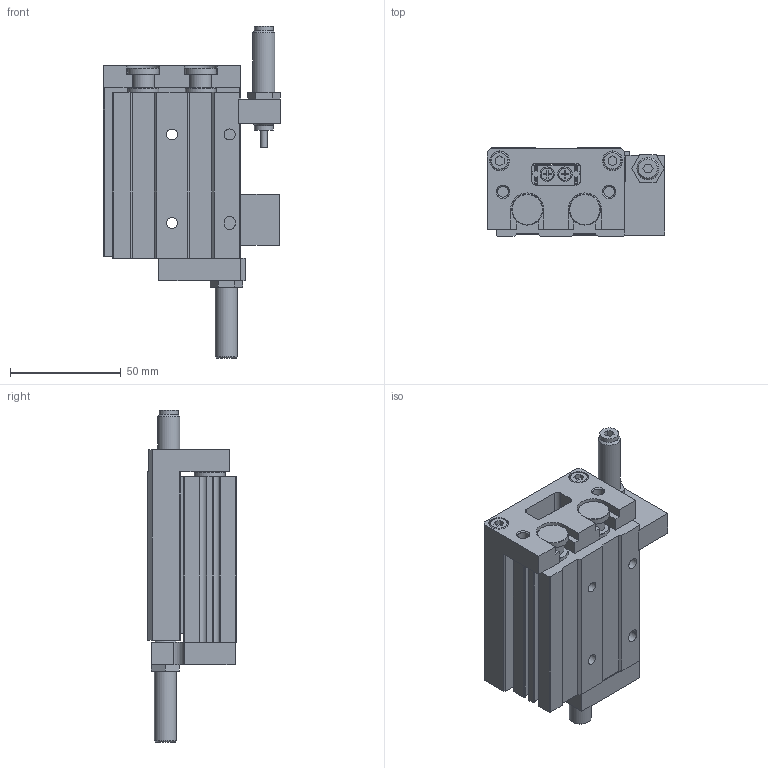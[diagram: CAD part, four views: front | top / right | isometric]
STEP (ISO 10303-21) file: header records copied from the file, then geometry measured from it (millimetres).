
FILE_DESCRIPTION( ( 'STEP AP214' ), '1' );
FILE_NAME( 'C:/Users/EMC02301/Desktop/ELSL图纸/ELSL16X30-S-B.stp', '2026-08-05T07:47:32', ( 'License CC BY-ND 4.0' ), ( 'CADENAS' ), ' ', 'PARTsolutions', ' ' );
FILE_SCHEMA( ( 'AUTOMOTIVE_DESIGN { 1 0 10303 214 1 1 1 1 }' ) );
Length unit declared in the file: millimetre
Products named in the file (6): ELSL16X30-S-B(0)(); _ELSL16X30-S-B(HX-07)(HX-07-1)(0-body); _ELSL16X30-S-B(0-rod); _FJ-ELS16-B; _FJ-ELSL16-B-(BS); _FJ-ELSL16-B-(BF)
Assembly tree (5 placements, depth 2):
  ELSL16X30-S-B(0)()
    _ELSL16X30-S-B(HX-07)(HX-07-1)(0-body)
    _ELSL16X30-S-B(0-rod)
    _FJ-ELS16-B
    _FJ-ELSL16-B-(BS)
    _FJ-ELSL16-B-(BF)
Bounding box: 80 x 40 x 150 mm (x, y, z)
Volume: 200961 mm3; surface area: 68387 mm2
Topology: 5 solids, 5 shells, 567 faces, 1356 edges, 893 vertices
Faces by surface type: plane 435, cylinder 102, cone 28, torus 2
Full cylindrical faces by diameter (mm): 3 x2, 4.134 x12, 4.459 x2, 4.917 x4, 5 x2, 5.1 x2, 5.5 x8, 6.5 x8, 6.933 x2, 7.267 x2, 7.333 x2, 7.667 x2, 8 x9, 8.5 x2, 8.6 x2, 9 x6, 10 x4, 10.5 x4, 14 x6, 16 x4, 18 x2
Entity records: 20246 total; most frequent: CARTESIAN_POINT 2679, DIRECTION 2612, ORIENTED_EDGE 2452, EDGE_CURVE 1226, LINE 986, VECTOR 986, VERTEX_POINT 880, AXIS2_PLACEMENT_3D 813
